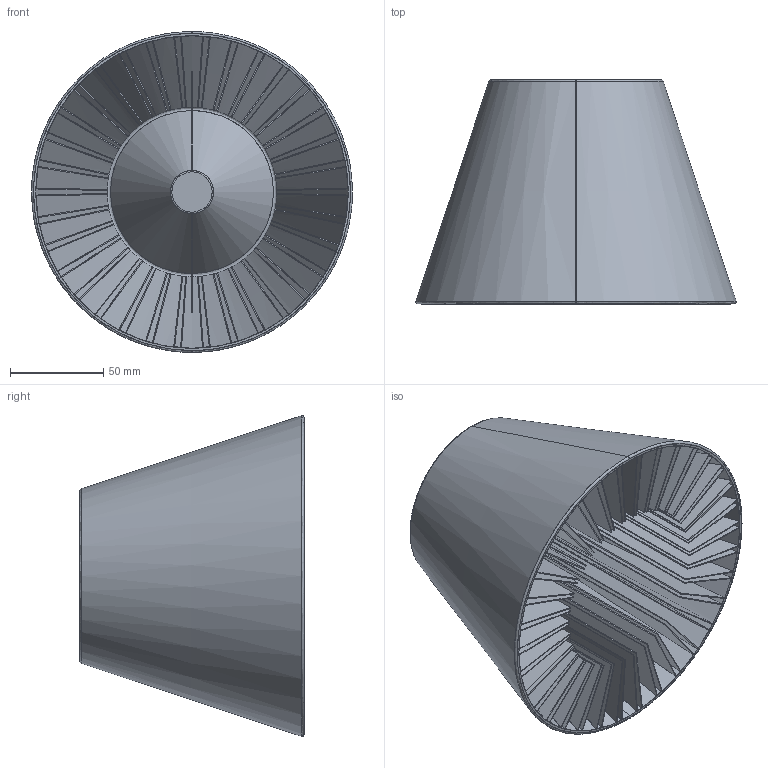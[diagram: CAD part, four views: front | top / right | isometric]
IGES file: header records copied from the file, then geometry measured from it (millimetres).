
Start section: SolidWorks IGES file using analytic representation for surfaces
Global section: file name: C:\Users\danielet\Desktop\3D CARLOS\CARRE-P3762-3D\CARRE-P3762-3D.IGS; native system: SolidWorks 2018; preprocessor: SolidWorks 2018; author: danielet; date: 211221.084111; units: millimetre
Bounding box: 171.79 x 120 x 171.87 mm (x, y, z)
Surface area: 426328 mm2 (no closed solid volume)
Topology: 0 solids, 0 shells, 363 faces, 2424 edges, 2424 vertices
Faces by surface type: bspline 217, revolution 146
